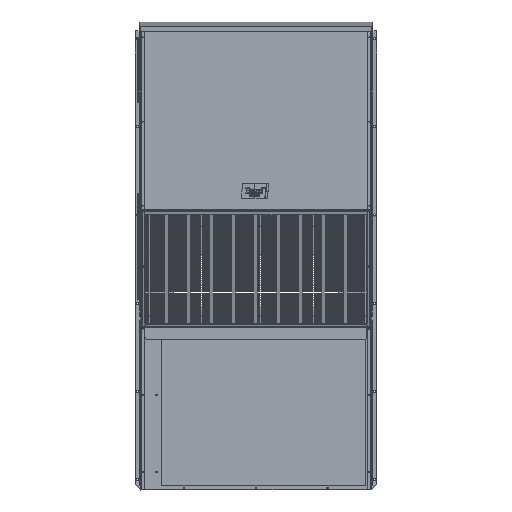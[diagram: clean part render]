
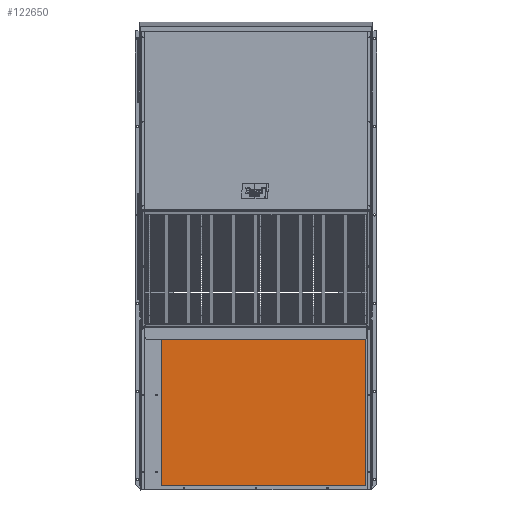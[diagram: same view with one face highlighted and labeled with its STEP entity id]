
A CAD part, top view. The second image highlights one B-rep face of the part: STEP entity #122650.
In plain terms, the highlighted planar face has unit normal (0, 0, 1).
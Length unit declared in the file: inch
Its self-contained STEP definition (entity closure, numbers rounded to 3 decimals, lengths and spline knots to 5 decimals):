
#9754 = CARTESIAN_POINT ( 'NONE',  ( 19.86354, 0.79656, 0.14022 ) ) ;
#12782 = EDGE_CURVE ( 'NONE', #90537, #30948, #171897, .T. ) ;
#14620 = CARTESIAN_POINT ( 'NONE',  ( 19.86354, 0.79656, 0.14022 ) ) ;
#28547 = PLANE ( 'NONE',  #66235 ) ;
#30948 = VERTEX_POINT ( 'NONE', #84287 ) ;
#37043 = LINE ( 'NONE', #14620, #193193 ) ;
#46137 = VECTOR ( 'NONE', #76116, 39.37008 ) ;
#57724 = FACE_OUTER_BOUND ( 'NONE', #94664, .T. ) ;
#59676 = DIRECTION ( 'NONE',  ( 0., 0., 1. ) ) ;
#64937 = CARTESIAN_POINT ( 'NONE',  ( 19.86354, 30.84656, 0.14022 ) ) ;
#66235 = AXIS2_PLACEMENT_3D ( 'NONE', #150283, #59676, #165440 ) ;
#68906 = ORIENTED_EDGE ( 'NONE', *, *, #150914, .F. ) ;
#71056 = EDGE_CURVE ( 'NONE', #30948, #158621, #123420, .T. ) ;
#75467 = DIRECTION ( 'NONE',  ( 0., -1., 0. ) ) ;
#76116 = DIRECTION ( 'NONE',  ( -1., 0., 0. ) ) ;
#81008 = ORIENTED_EDGE ( 'NONE', *, *, #12782, .F. ) ;
#84287 = CARTESIAN_POINT ( 'NONE',  ( -17.20926, 30.84656, 0.14022 ) ) ;
#90537 = VERTEX_POINT ( 'NONE', #122659 ) ;
#94664 = EDGE_LOOP ( 'NONE', ( #68906, #124356, #110910, #81008 ) ) ;
#102804 = DIRECTION ( 'NONE',  ( 0., 1., 0. ) ) ;
#110910 = ORIENTED_EDGE ( 'NONE', *, *, #71056, .F. ) ;
#111889 = VERTEX_POINT ( 'NONE', #9754 ) ;
#118662 = VECTOR ( 'NONE', #158623, 39.37008 ) ;
#121141 = CARTESIAN_POINT ( 'NONE',  ( -17.20926, 0.79656, 0.14022 ) ) ;
#122650 = ADVANCED_FACE ( 'NONE', ( #57724 ), #28547, .T. ) ;
#122659 = CARTESIAN_POINT ( 'NONE',  ( -17.20926, 0.79656, 0.14022 ) ) ;
#123420 = LINE ( 'NONE', #188422, #118662 ) ;
#124356 = ORIENTED_EDGE ( 'NONE', *, *, #145669, .F. ) ;
#127050 = VECTOR ( 'NONE', #102804, 39.37008 ) ;
#145669 = EDGE_CURVE ( 'NONE', #158621, #111889, #37043, .T. ) ;
#150283 = CARTESIAN_POINT ( 'NONE',  ( -21.33046, 31.42901, 0.14022 ) ) ;
#150914 = EDGE_CURVE ( 'NONE', #111889, #90537, #162124, .T. ) ;
#158621 = VERTEX_POINT ( 'NONE', #64937 ) ;
#158623 = DIRECTION ( 'NONE',  ( 1., 0., 0. ) ) ;
#162124 = LINE ( 'NONE', #121141, #46137 ) ;
#165440 = DIRECTION ( 'NONE',  ( 0., -1., 0. ) ) ;
#171897 = LINE ( 'NONE', #178196, #127050 ) ;
#178196 = CARTESIAN_POINT ( 'NONE',  ( -17.20926, 30.84656, 0.14022 ) ) ;
#188422 = CARTESIAN_POINT ( 'NONE',  ( 19.86354, 30.84656, 0.14022 ) ) ;
#193193 = VECTOR ( 'NONE', #75467, 39.37008 ) ;
